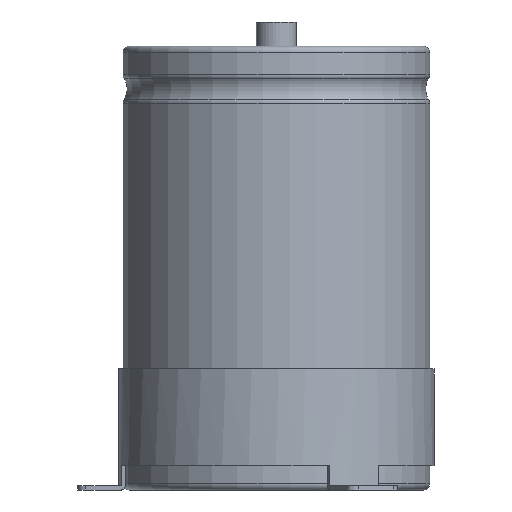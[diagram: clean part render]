
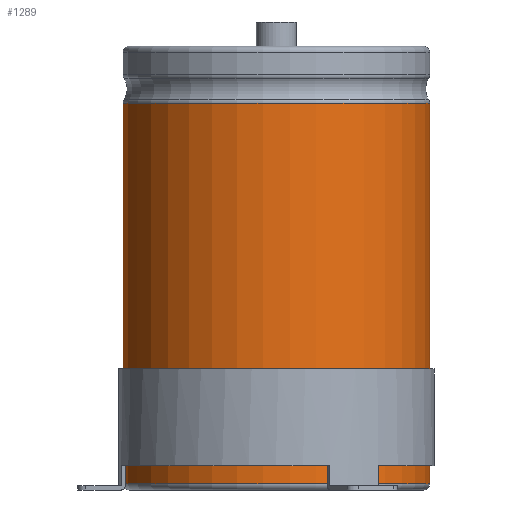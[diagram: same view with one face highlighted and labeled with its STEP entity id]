
A CAD part, front view. The second image highlights one B-rep face of the part: STEP entity #1289.
In plain terms, the highlighted cylindrical face has radius 38.1 mm (diameter 76.2 mm), a partial arc.
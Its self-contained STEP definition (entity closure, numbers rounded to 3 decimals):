
#233=LINE('',#6601,#447);
#234=LINE('',#6605,#448);
#447=VECTOR('',#5224,1.);
#448=VECTOR('',#5227,1.);
#695=FACE_OUTER_BOUND('',#1741,.T.);
#1289=ADVANCED_FACE('',(#695),#1519,.T.);
#1519=CYLINDRICAL_SURFACE('',#4585,38.1);
#1741=EDGE_LOOP('',(#2147,#2148,#2149,#2150));
#2147=ORIENTED_EDGE('',*,*,#3702,.T.);
#2148=ORIENTED_EDGE('',*,*,#3703,.T.);
#2149=ORIENTED_EDGE('',*,*,#3704,.F.);
#2150=ORIENTED_EDGE('',*,*,#3705,.F.);
#3274=VERTEX_POINT('',#6594);
#3276=VERTEX_POINT('',#6598);
#3277=VERTEX_POINT('',#6602);
#3278=VERTEX_POINT('',#6604);
#3702=EDGE_CURVE('',#3274,#3276,#4267,.T.);
#3703=EDGE_CURVE('',#3276,#3277,#233,.T.);
#3704=EDGE_CURVE('',#3278,#3277,#4268,.T.);
#3705=EDGE_CURVE('',#3274,#3278,#234,.T.);
#4267=CIRCLE('',#4582,38.1);
#4268=CIRCLE('',#4584,38.1);
#4582=AXIS2_PLACEMENT_3D('',#6599,#5220,#5221);
#4584=AXIS2_PLACEMENT_3D('',#6603,#5225,#5226);
#4585=AXIS2_PLACEMENT_3D('',#6606,#5228,#5229);
#5220=DIRECTION('',(0.,0.,-1.));
#5221=DIRECTION('',(0.,1.,0.));
#5224=DIRECTION('',(0.,0.,-1.));
#5225=DIRECTION('',(0.,0.,-1.));
#5226=DIRECTION('',(0.,1.,0.));
#5227=DIRECTION('',(0.,0.,-1.));
#5228=DIRECTION('',(0.,0.,-1.));
#5229=DIRECTION('',(0.,1.,0.));
#6594=CARTESIAN_POINT('',(3.983,37.891,95.9));
#6598=CARTESIAN_POINT('',(-3.983,37.891,95.9));
#6599=CARTESIAN_POINT('',(0.,0.,95.9));
#6601=CARTESIAN_POINT('',(-3.983,37.891,95.9));
#6602=CARTESIAN_POINT('',(-3.983,37.891,1.5));
#6603=CARTESIAN_POINT('',(0.,0.,1.5));
#6604=CARTESIAN_POINT('',(3.983,37.891,1.5));
#6605=CARTESIAN_POINT('',(3.983,37.891,95.9));
#6606=CARTESIAN_POINT('',(0.,0.,0.));
